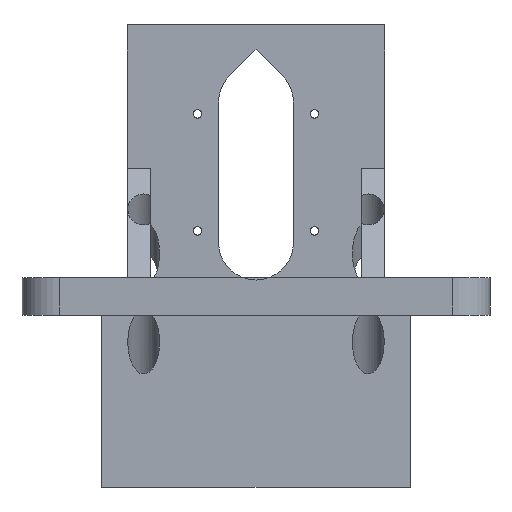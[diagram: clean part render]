
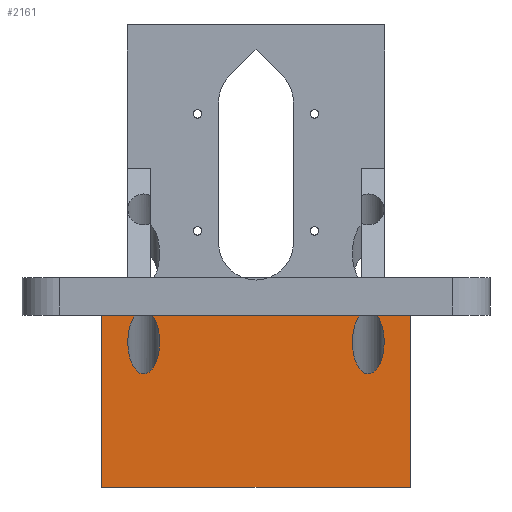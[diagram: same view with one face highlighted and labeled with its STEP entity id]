
A CAD part, left-side view. The second image highlights one B-rep face of the part: STEP entity #2161.
In plain terms, the highlighted planar face has unit normal (-1, 0, 0).
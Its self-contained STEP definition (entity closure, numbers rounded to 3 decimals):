
#1463 = EDGE_CURVE('',#1464,#1466,#1468,.T.);
#1464 = VERTEX_POINT('',#1465);
#1465 = CARTESIAN_POINT('',(-29.,-25.799,0.));
#1466 = VERTEX_POINT('',#1467);
#1467 = CARTESIAN_POINT('',(-29.,-22.201,0.));
#1468 = ELLIPSE('',#1469,6.8,3.4);
#1469 = AXIS2_PLACEMENT_3D('',#1470,#1471,#1472);
#1470 = CARTESIAN_POINT('',(-29.,-24.,-5.771));
#1471 = DIRECTION('',(1.,-0.,0.));
#1472 = DIRECTION('',(0.,0.,-1.));
#1729 = EDGE_CURVE('',#1730,#1732,#1734,.T.);
#1730 = VERTEX_POINT('',#1731);
#1731 = CARTESIAN_POINT('',(-29.,22.201,0.));
#1732 = VERTEX_POINT('',#1733);
#1733 = CARTESIAN_POINT('',(-29.,25.799,0.));
#1734 = ELLIPSE('',#1735,6.8,3.4);
#1735 = AXIS2_PLACEMENT_3D('',#1736,#1737,#1738);
#1736 = CARTESIAN_POINT('',(-29.,24.,-5.771));
#1737 = DIRECTION('',(1.,-0.,0.));
#1738 = DIRECTION('',(0.,0.,-1.));
#1819 = VERTEX_POINT('',#1820);
#1820 = CARTESIAN_POINT('',(-29.,33.,0.));
#1828 = EDGE_CURVE('',#1819,#1732,#1829,.T.);
#1829 = LINE('',#1830,#1831);
#1830 = CARTESIAN_POINT('',(-29.,-16.5,0.));
#1831 = VECTOR('',#1832,1.);
#1832 = DIRECTION('',(0.,-1.,0.));
#1835 = EDGE_CURVE('',#1730,#1466,#1836,.T.);
#1836 = LINE('',#1837,#1838);
#1837 = CARTESIAN_POINT('',(-29.,-16.5,0.));
#1838 = VECTOR('',#1839,1.);
#1839 = DIRECTION('',(0.,-1.,0.));
#1842 = EDGE_CURVE('',#1464,#1843,#1845,.T.);
#1843 = VERTEX_POINT('',#1844);
#1844 = CARTESIAN_POINT('',(-29.,-33.,0.));
#1845 = LINE('',#1846,#1847);
#1846 = CARTESIAN_POINT('',(-29.,-16.5,0.));
#1847 = VECTOR('',#1848,1.);
#1848 = DIRECTION('',(0.,-1.,0.));
#2161 = ADVANCED_FACE('',(#2162),#2191,.F.);
#2162 = FACE_BOUND('',#2163,.F.);
#2163 = EDGE_LOOP('',(#2164,#2172,#2180,#2186,#2187,#2188,#2189,#2190));
#2164 = ORIENTED_EDGE('',*,*,#2165,.F.);
#2165 = EDGE_CURVE('',#2166,#1843,#2168,.T.);
#2166 = VERTEX_POINT('',#2167);
#2167 = CARTESIAN_POINT('',(-29.,-33.,-36.743));
#2168 = LINE('',#2169,#2170);
#2169 = CARTESIAN_POINT('',(-29.,-33.,-37.743));
#2170 = VECTOR('',#2171,1.);
#2171 = DIRECTION('',(0.,0.,1.));
#2172 = ORIENTED_EDGE('',*,*,#2173,.F.);
#2173 = EDGE_CURVE('',#2174,#2166,#2176,.T.);
#2174 = VERTEX_POINT('',#2175);
#2175 = CARTESIAN_POINT('',(-29.,33.,-36.743));
#2176 = LINE('',#2177,#2178);
#2177 = CARTESIAN_POINT('',(-29.,-91.5,-36.743));
#2178 = VECTOR('',#2179,1.);
#2179 = DIRECTION('',(0.,-1.,0.));
#2180 = ORIENTED_EDGE('',*,*,#2181,.T.);
#2181 = EDGE_CURVE('',#2174,#1819,#2182,.T.);
#2182 = LINE('',#2183,#2184);
#2183 = CARTESIAN_POINT('',(-29.,33.,-37.743));
#2184 = VECTOR('',#2185,1.);
#2185 = DIRECTION('',(0.,0.,1.));
#2186 = ORIENTED_EDGE('',*,*,#1828,.T.);
#2187 = ORIENTED_EDGE('',*,*,#1729,.F.);
#2188 = ORIENTED_EDGE('',*,*,#1835,.T.);
#2189 = ORIENTED_EDGE('',*,*,#1463,.F.);
#2190 = ORIENTED_EDGE('',*,*,#1842,.T.);
#2191 = PLANE('',#2192);
#2192 = AXIS2_PLACEMENT_3D('',#2193,#2194,#2195);
#2193 = CARTESIAN_POINT('',(-29.,-33.,-37.743));
#2194 = DIRECTION('',(1.,0.,0.));
#2195 = DIRECTION('',(0.,0.,1.));
